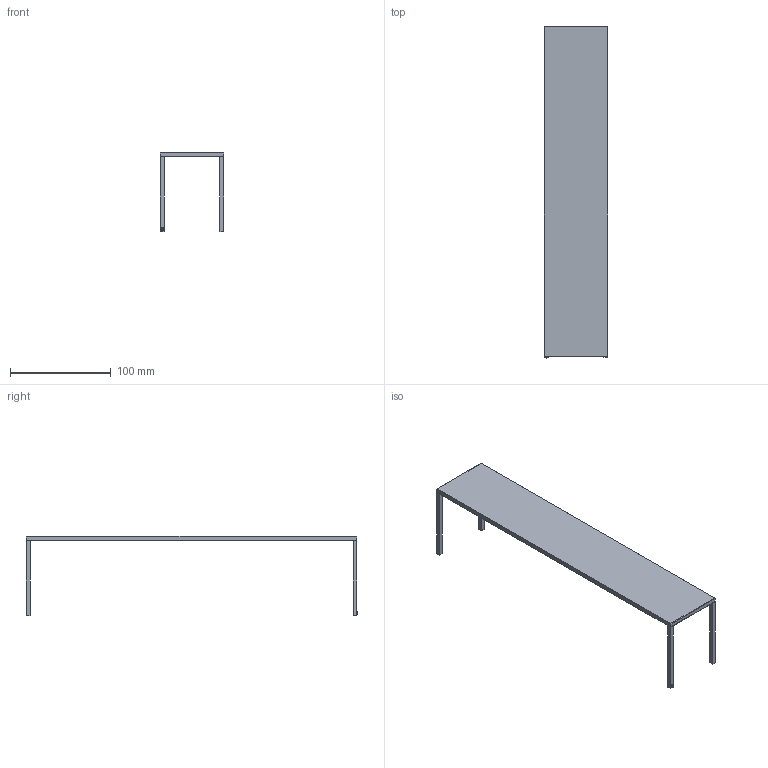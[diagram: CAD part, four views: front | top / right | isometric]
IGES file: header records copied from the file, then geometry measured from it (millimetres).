
Global section: file name: BlancoWhite R3; native system: Unknown; preprocessor: BodyObjectToATFToIges; author: Autodesk 3ds Max; organization: Autodesk; date: 20180117.092705; units: centimetre
Bounding box: 62.99 x 329.29 x 78.74 mm (x, y, z)
Surface area: 31850 mm2 (no closed solid volume)
Topology: 0 solids, 0 shells, 74 faces, 371 edges, 371 vertices
Faces by surface type: bspline 61, revolution 13
